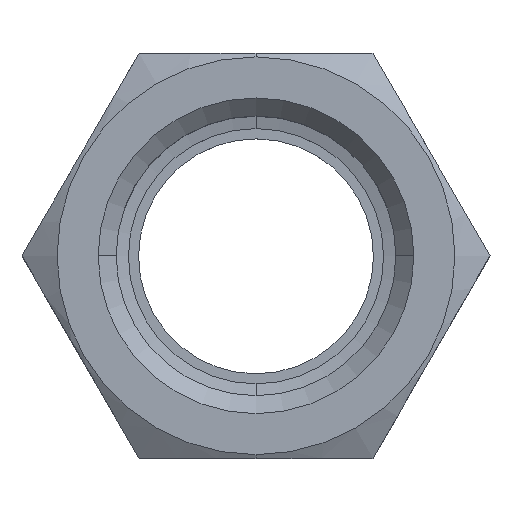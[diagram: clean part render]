
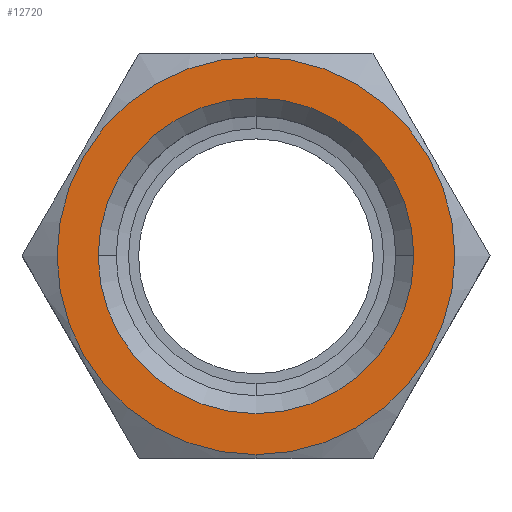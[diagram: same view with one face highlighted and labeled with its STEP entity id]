
A CAD part, top view. The second image highlights one B-rep face of the part: STEP entity #12720.
In plain terms, the highlighted planar face has unit normal (0, 0, 1).
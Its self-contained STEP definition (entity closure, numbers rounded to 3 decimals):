
#12370=CARTESIAN_POINT('',(0.,0.,17.));
#12380=DIRECTION('',(0.,0.,1.));
#12390=DIRECTION('',(1.,0.,0.));
#12400=AXIS2_PLACEMENT_3D('',#12370,#12380,#12390);
#12410=PLANE('',#12400);
#12420=CARTESIAN_POINT('',(38.473,60.072,17.));
#12430=DIRECTION('',(0.,0.,-1.));
#12440=DIRECTION('',(0.,-1.,0.));
#12450=AXIS2_PLACEMENT_3D('',#12420,#12430,#12440);
#12460=CIRCLE('',#12450,13.25);
#12470=CARTESIAN_POINT('',(38.473,46.822,17.));
#12480=VERTEX_POINT('',#12470);
#12490=CARTESIAN_POINT('',(38.473,73.322,17.));
#12500=VERTEX_POINT('',#12490);
#12510=EDGE_CURVE('',#12480,#12500,#12460,.T.);
#12520=ORIENTED_EDGE('',*,*,#12510,.F.);
#12530=EDGE_CURVE('',#12500,#12480,#12460,.T.);
#12540=ORIENTED_EDGE('',*,*,#12530,.F.);
#12550=EDGE_LOOP('',(#12540,#12520));
#12560=FACE_OUTER_BOUND('',#12550,.T.);
#12570=CARTESIAN_POINT('',(38.473,60.072,17.));
#12580=DIRECTION('',(0.,0.,1.));
#12590=DIRECTION('',(1.,0.,0.));
#12600=AXIS2_PLACEMENT_3D('',#12570,#12580,#12590);
#12610=CIRCLE('',#12600,10.516);
#12620=CARTESIAN_POINT('',(48.988,60.072,17.));
#12630=VERTEX_POINT('',#12620);
#12640=CARTESIAN_POINT('',(27.957,60.072,17.));
#12650=VERTEX_POINT('',#12640);
#12660=EDGE_CURVE('',#12630,#12650,#12610,.T.);
#12670=ORIENTED_EDGE('',*,*,#12660,.F.);
#12680=EDGE_CURVE('',#12650,#12630,#12610,.T.);
#12690=ORIENTED_EDGE('',*,*,#12680,.F.);
#12700=EDGE_LOOP('',(#12690,#12670));
#12710=FACE_BOUND('',#12700,.T.);
#12720=ADVANCED_FACE('',(#12560,#12710),#12410,.T.);
